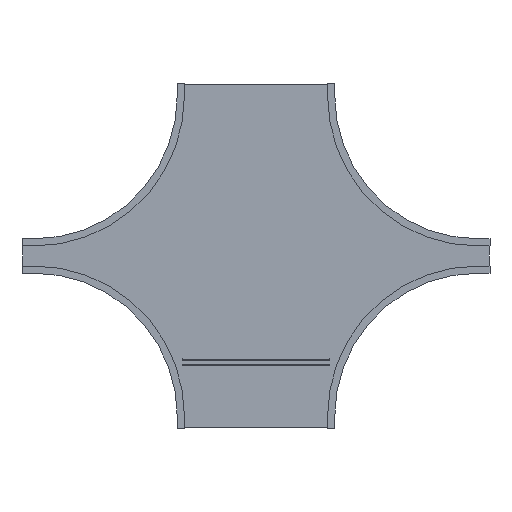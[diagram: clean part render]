
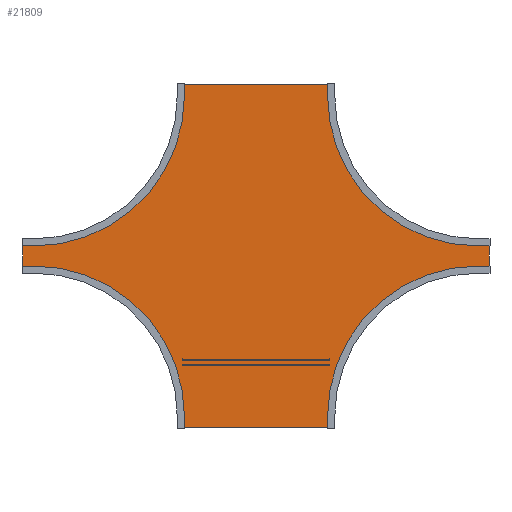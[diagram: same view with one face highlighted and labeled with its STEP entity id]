
A CAD part, front view. The second image highlights one B-rep face of the part: STEP entity #21809.
In plain terms, the highlighted planar face has unit normal (0, -1, 0).
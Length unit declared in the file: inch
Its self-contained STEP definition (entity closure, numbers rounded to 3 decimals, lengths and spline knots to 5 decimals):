
#21506=DIRECTION('',(0.,0.,1.));
#21507=VECTOR('',#21506,5.875);
#21508=CARTESIAN_POINT('',(-56.875,0.,-2.9375));
#21509=LINE('',#21508,#21507);
#21510=DIRECTION('',(1.,0.,0.));
#21511=VECTOR('',#21510,2.785);
#21512=CARTESIAN_POINT('',(-56.875,0.,2.9375));
#21513=LINE('',#21512,#21511);
#21514=CARTESIAN_POINT('',(-54.09,0.,39.09));
#21515=DIRECTION('',(0.,-1.,0.));
#21516=DIRECTION('',(0.,0.,-1.));
#21517=AXIS2_PLACEMENT_3D('',#21514,#21515,#21516);
#21519=DIRECTION('',(0.,0.,1.));
#21520=VECTOR('',#21519,2.785);
#21521=CARTESIAN_POINT('',(-17.9375,0.,39.09));
#21522=LINE('',#21521,#21520);
#21523=DIRECTION('',(1.,0.,0.));
#21524=VECTOR('',#21523,35.875);
#21525=CARTESIAN_POINT('',(-17.9375,0.,41.875));
#21526=LINE('',#21525,#21524);
#21527=DIRECTION('',(0.,0.,-1.));
#21528=VECTOR('',#21527,2.785);
#21529=CARTESIAN_POINT('',(17.9375,0.,41.875));
#21530=LINE('',#21529,#21528);
#21531=CARTESIAN_POINT('',(54.09,0.,39.09));
#21532=DIRECTION('',(0.,-1.,0.));
#21533=DIRECTION('',(-1.,0.,0.));
#21534=AXIS2_PLACEMENT_3D('',#21531,#21532,#21533);
#21536=DIRECTION('',(1.,0.,0.));
#21537=VECTOR('',#21536,2.785);
#21538=CARTESIAN_POINT('',(54.09,0.,2.9375));
#21539=LINE('',#21538,#21537);
#21540=DIRECTION('',(0.,0.,-1.));
#21541=VECTOR('',#21540,5.875);
#21542=CARTESIAN_POINT('',(56.875,0.,2.9375));
#21543=LINE('',#21542,#21541);
#21544=DIRECTION('',(-1.,0.,0.));
#21545=VECTOR('',#21544,2.785);
#21546=CARTESIAN_POINT('',(56.875,0.,-2.9375));
#21547=LINE('',#21546,#21545);
#21548=CARTESIAN_POINT('',(54.09,0.,-39.09));
#21549=DIRECTION('',(0.,-1.,0.));
#21550=DIRECTION('',(0.,0.,1.));
#21551=AXIS2_PLACEMENT_3D('',#21548,#21549,#21550);
#21553=DIRECTION('',(0.,0.,-1.));
#21554=VECTOR('',#21553,2.785);
#21555=CARTESIAN_POINT('',(17.9375,0.,-39.09));
#21556=LINE('',#21555,#21554);
#21557=DIRECTION('',(-1.,0.,0.));
#21558=VECTOR('',#21557,35.875);
#21559=CARTESIAN_POINT('',(17.9375,0.,-41.875));
#21560=LINE('',#21559,#21558);
#21561=DIRECTION('',(0.,0.,1.));
#21562=VECTOR('',#21561,2.785);
#21563=CARTESIAN_POINT('',(-17.9375,0.,-41.875));
#21564=LINE('',#21563,#21562);
#21565=CARTESIAN_POINT('',(-54.09,0.,-39.09));
#21566=DIRECTION('',(0.,-1.,0.));
#21567=DIRECTION('',(1.,0.,0.));
#21568=AXIS2_PLACEMENT_3D('',#21565,#21566,#21567);
#21570=DIRECTION('',(-1.,0.,0.));
#21571=VECTOR('',#21570,2.785);
#21572=CARTESIAN_POINT('',(-54.09,0.,-2.9375));
#21573=LINE('',#21572,#21571);
#21706=CARTESIAN_POINT('',(-56.875,0.,-2.9375));
#21707=CARTESIAN_POINT('',(-56.875,0.,2.9375));
#21708=VERTEX_POINT('',#21706);
#21709=VERTEX_POINT('',#21707);
#21710=CARTESIAN_POINT('',(-54.09,0.,2.9375));
#21711=VERTEX_POINT('',#21710);
#21712=CARTESIAN_POINT('',(-17.9375,0.,39.09));
#21713=VERTEX_POINT('',#21712);
#21714=CARTESIAN_POINT('',(-17.9375,0.,41.875));
#21715=VERTEX_POINT('',#21714);
#21716=CARTESIAN_POINT('',(17.9375,0.,41.875));
#21717=VERTEX_POINT('',#21716);
#21718=CARTESIAN_POINT('',(17.9375,0.,39.09));
#21719=VERTEX_POINT('',#21718);
#21720=CARTESIAN_POINT('',(54.09,0.,2.9375));
#21721=VERTEX_POINT('',#21720);
#21722=CARTESIAN_POINT('',(56.875,0.,2.9375));
#21723=VERTEX_POINT('',#21722);
#21724=CARTESIAN_POINT('',(56.875,0.,-2.9375));
#21725=VERTEX_POINT('',#21724);
#21726=CARTESIAN_POINT('',(54.09,0.,-2.9375));
#21727=VERTEX_POINT('',#21726);
#21728=CARTESIAN_POINT('',(17.9375,0.,-39.09));
#21729=VERTEX_POINT('',#21728);
#21730=CARTESIAN_POINT('',(17.9375,0.,-41.875));
#21731=VERTEX_POINT('',#21730);
#21732=CARTESIAN_POINT('',(-17.9375,0.,-41.875));
#21733=VERTEX_POINT('',#21732);
#21734=CARTESIAN_POINT('',(-17.9375,0.,-39.09));
#21735=VERTEX_POINT('',#21734);
#21736=CARTESIAN_POINT('',(-54.09,0.,-2.9375));
#21737=VERTEX_POINT('',#21736);
#21770=CARTESIAN_POINT('',(0.,0.,0.));
#21771=DIRECTION('',(0.,1.,0.));
#21772=DIRECTION('',(1.,0.,0.));
#21773=AXIS2_PLACEMENT_3D('',#21770,#21771,#21772);
#21774=PLANE('',#21773);
#21776=ORIENTED_EDGE('',*,*,#21775,.T.);
#21778=ORIENTED_EDGE('',*,*,#21777,.T.);
#21780=ORIENTED_EDGE('',*,*,#21779,.T.);
#21782=ORIENTED_EDGE('',*,*,#21781,.T.);
#21784=ORIENTED_EDGE('',*,*,#21783,.T.);
#21786=ORIENTED_EDGE('',*,*,#21785,.T.);
#21788=ORIENTED_EDGE('',*,*,#21787,.T.);
#21790=ORIENTED_EDGE('',*,*,#21789,.T.);
#21792=ORIENTED_EDGE('',*,*,#21791,.T.);
#21794=ORIENTED_EDGE('',*,*,#21793,.T.);
#21796=ORIENTED_EDGE('',*,*,#21795,.T.);
#21798=ORIENTED_EDGE('',*,*,#21797,.T.);
#21800=ORIENTED_EDGE('',*,*,#21799,.T.);
#21802=ORIENTED_EDGE('',*,*,#21801,.T.);
#21804=ORIENTED_EDGE('',*,*,#21803,.T.);
#21806=ORIENTED_EDGE('',*,*,#21805,.T.);
#21807=EDGE_LOOP('',(#21776,#21778,#21780,#21782,#21784,#21786,#21788,#21790,
#21792,#21794,#21796,#21798,#21800,#21802,#21804,#21806));
#21808=FACE_OUTER_BOUND('',#21807,.F.);
#21809=ADVANCED_FACE('',(#21808),#21774,.F.);
#21518=CIRCLE('',#21517,36.1525);
#21535=CIRCLE('',#21534,36.1525);
#21552=CIRCLE('',#21551,36.1525);
#21569=CIRCLE('',#21568,36.1525);
#21775=EDGE_CURVE('',#21708,#21709,#21509,.T.);
#21777=EDGE_CURVE('',#21709,#21711,#21513,.T.);
#21779=EDGE_CURVE('',#21711,#21713,#21518,.T.);
#21781=EDGE_CURVE('',#21713,#21715,#21522,.T.);
#21783=EDGE_CURVE('',#21715,#21717,#21526,.T.);
#21785=EDGE_CURVE('',#21717,#21719,#21530,.T.);
#21787=EDGE_CURVE('',#21719,#21721,#21535,.T.);
#21789=EDGE_CURVE('',#21721,#21723,#21539,.T.);
#21791=EDGE_CURVE('',#21723,#21725,#21543,.T.);
#21793=EDGE_CURVE('',#21725,#21727,#21547,.T.);
#21795=EDGE_CURVE('',#21727,#21729,#21552,.T.);
#21797=EDGE_CURVE('',#21729,#21731,#21556,.T.);
#21799=EDGE_CURVE('',#21731,#21733,#21560,.T.);
#21801=EDGE_CURVE('',#21733,#21735,#21564,.T.);
#21803=EDGE_CURVE('',#21735,#21737,#21569,.T.);
#21805=EDGE_CURVE('',#21737,#21708,#21573,.T.);
